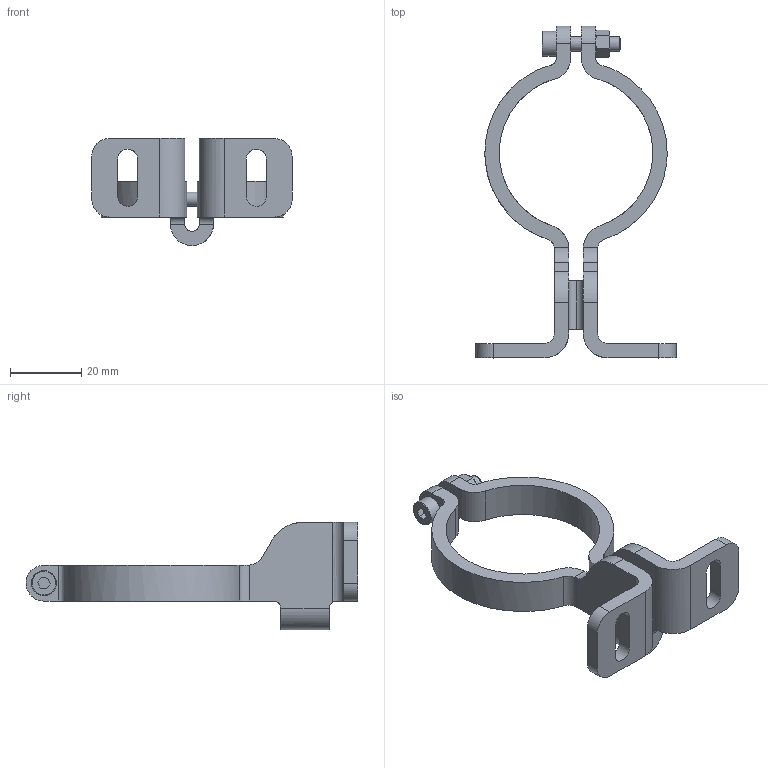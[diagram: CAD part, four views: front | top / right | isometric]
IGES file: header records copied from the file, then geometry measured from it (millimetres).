
Global section: file name: c:\studi\studi\1.igs; preprocessor: I-DEAS 3D IGES Translator 13; date: 20110505.181927; units: millimetre
Bounding box: 56 x 92.88 x 30 mm (x, y, z)
Volume: 14623.5 mm3; surface area: 10842.7 mm2
Topology: 1 solids, 1 shells, 114 faces, 421 edges, 331 vertices
Faces by surface type: bspline 114
